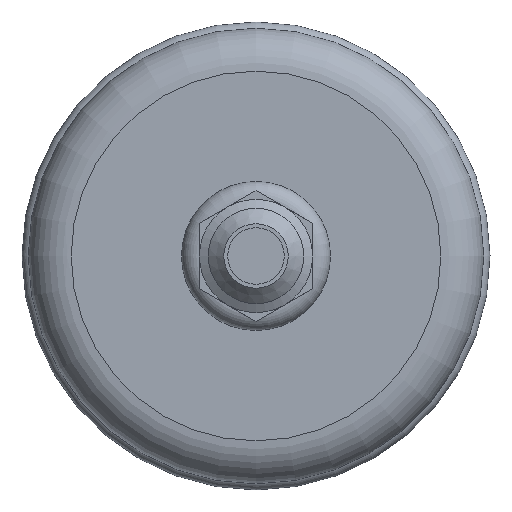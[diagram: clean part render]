
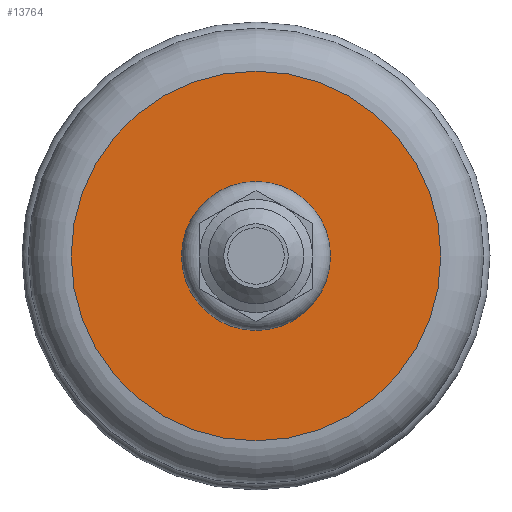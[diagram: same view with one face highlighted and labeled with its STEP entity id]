
A CAD part, front view. The second image highlights one B-rep face of the part: STEP entity #13764.
In plain terms, the highlighted planar face has unit normal (0, -1, 0).
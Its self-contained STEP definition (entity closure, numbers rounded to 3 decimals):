
#3884=PLANE('',#14542);
#4414=FACE_BOUND('',#5266,.T.);
#4495=FACE_OUTER_BOUND('',#5265,.T.);
#5265=EDGE_LOOP('',(#9619,#9620));
#5266=EDGE_LOOP('',(#9621));
#6119=CIRCLE('',#14541,12.5);
#6120=CIRCLE('',#14543,31.);
#6121=CIRCLE('',#14544,31.);
#6158=VERTEX_POINT('',#17955);
#6159=VERTEX_POINT('',#17958);
#6160=VERTEX_POINT('',#17959);
#7545=EDGE_CURVE('',#6158,#6158,#6119,.T.);
#7546=EDGE_CURVE('',#6159,#6160,#6120,.T.);
#7547=EDGE_CURVE('',#6160,#6159,#6121,.T.);
#9619=ORIENTED_EDGE('',*,*,#7546,.T.);
#9620=ORIENTED_EDGE('',*,*,#7547,.T.);
#9621=ORIENTED_EDGE('',*,*,#7545,.T.);
#13764=ADVANCED_FACE('',(#4495,#4414),#3884,.T.);
#14541=AXIS2_PLACEMENT_3D('',#17956,#15153,#15154);
#14542=AXIS2_PLACEMENT_3D('',#17957,#15155,#15156);
#14543=AXIS2_PLACEMENT_3D('',#17960,#15157,#15158);
#14544=AXIS2_PLACEMENT_3D('',#17961,#15159,#15160);
#15153=DIRECTION('center_axis',(0.,1.,0.));
#15154=DIRECTION('ref_axis',(0.,0.,1.));
#15155=DIRECTION('center_axis',(0.,-1.,0.));
#15156=DIRECTION('ref_axis',(0.,0.,-1.));
#15157=DIRECTION('center_axis',(0.,-1.,0.));
#15158=DIRECTION('ref_axis',(-1.,0.,0.));
#15159=DIRECTION('center_axis',(0.,-1.,0.));
#15160=DIRECTION('ref_axis',(-1.,0.,0.));
#17955=CARTESIAN_POINT('',(0.,-13.803,12.5));
#17956=CARTESIAN_POINT('Origin',(0.,-13.803,
0.));
#17957=CARTESIAN_POINT('Origin',(-20.025,-13.803,0.));
#17958=CARTESIAN_POINT('',(-31.,-13.803,0.));
#17959=CARTESIAN_POINT('',(0.,-13.803,31.));
#17960=CARTESIAN_POINT('Origin',(0.,-13.803,
0.));
#17961=CARTESIAN_POINT('Origin',(0.,-13.803,
0.));
